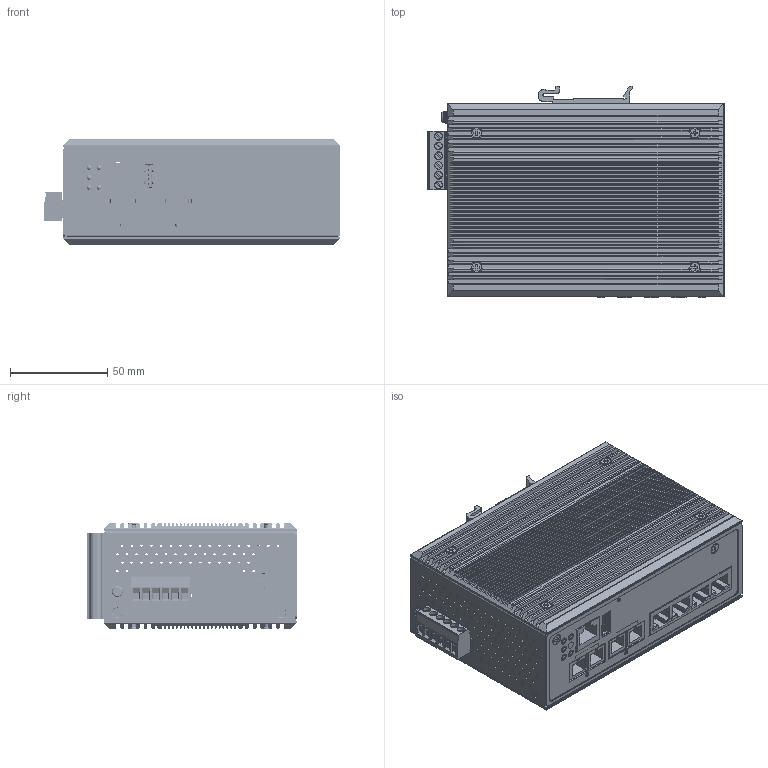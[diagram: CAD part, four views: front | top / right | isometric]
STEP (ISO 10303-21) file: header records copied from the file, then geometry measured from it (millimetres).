
FILE_DESCRIPTION(/* description */ ('STEP AP242 Edition 2','CAx-IF Rec.Pracs.---Representation and Presentation of Product Manufacturing Information (PMI)---4.0---2014-10-13','CAx-IF Rec.Pracs.---3D Tessellated Geometry---0.4---2014-09-14','2;1','CAx-IF Rec.Pracs.---User Defined Attributes---1.5---2016-08-15'),/* implementation_level */ '2;1');
FILE_NAME(/* name */ '69275d2b624f41757cb8db4b',/* time_stamp */ '2025-11-26T20:03:58Z',/* author */ (''),/* organization */ (''),/* preprocessor_version */ 'ST-DEVELOPER v20',/* originating_system */ 'ONSHAPE BY PTC INC, 1.207',/* authorisation */ ' ');
FILE_SCHEMA (('AP242_MANAGED_MODEL_BASED_3D_ENGINEERING_MIM_LF { 1 0 10303 442 3 1 4 }'));
Products named in the file (264): ETH-42MP-XX-2; PG5-0602_THERMAL-PAD_TOOLS_DOWN; BOTTOM-CASE; SC-FIBER_1; TOP_CASE; SCREW_M3X4_F_7; M3_SCREW_FOR_GRN_1604_ANY; RIGHT_COVER; SCREW_M3X4_F_12; BSO-M3-6_5L_2; 10G-SFP_BOTTOM-CASE_BK; RJ45-CONSOLE; THERMAL-PAD_18X13_5X6_5; BSO-M3-6_5L_3; THERMAL-PAD_20X14X6_5; CONN_04; SCREW_M3X4_F_16; LED_GREEN_2; CONN_09; SCREW_M3X4_F_4; BSO-M3-6_5L_1; PORT; CONN_01; THERMAL-PAD_22X22X6_5; SCREW_M3X4_F_17; CONN_11; SC-FIBER_2; CONN_07; THERMAL-PAD_22X22X6_5_1; THERMAL-PAD_22X12X2; CONN_05; PG5-0602_HEATSINK; RELAY_HFD3; CONN_12; BSO-M3-6_5L; SOCKET; SCREW_M3X4_F_2; SCREW_M3X4_F_6; CONN_08; SWITCH_PCB_PG5-0602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
Assembly tree (263 placements, depth 2):
  ETH-42MP-XX-2
    PG5-0602_THERMAL-PAD_TOOLS_DOWN
    BOTTOM-CASE
    BOTTOM-CASE
    SC-FIBER_1
    BOTTOM-CASE
    BOTTOM-CASE
    BOTTOM-CASE
    BOTTOM-CASE
    BOTTOM-CASE
    BOTTOM-CASE
    TOP_CASE
    SCREW_M3X4_F_7
    BOTTOM-CASE
    M3_SCREW_FOR_GRN_1604_ANY
    BOTTOM-CASE
    TOP_CASE
    TOP_CASE
    RIGHT_COVER
    BOTTOM-CASE
    SCREW_M3X4_F_12
    BOTTOM-CASE
    BOTTOM-CASE
    BOTTOM-CASE
    BSO-M3-6_5L_2
    BOTTOM-CASE
    10G-SFP_BOTTOM-CASE_BK
    BOTTOM-CASE
    RJ45-CONSOLE
    TOP_CASE
    BOTTOM-CASE
    BOTTOM-CASE
    BOTTOM-CASE
    BOTTOM-CASE
    THERMAL-PAD_18X13_5X6_5
    BSO-M3-6_5L_3
    THERMAL-PAD_20X14X6_5
    BOTTOM-CASE
    BOTTOM-CASE
    BOTTOM-CASE
    BOTTOM-CASE
    BOTTOM-CASE
    CONN_04
    BOTTOM-CASE
    BOTTOM-CASE
    BOTTOM-CASE
    BOTTOM-CASE
    SCREW_M3X4_F_16
    BOTTOM-CASE
    BOTTOM-CASE
    LED_GREEN_2
    BOTTOM-CASE
    BOTTOM-CASE
    BOTTOM-CASE
    TOP_CASE
    BOTTOM-CASE
    BOTTOM-CASE
    BOTTOM-CASE
    BOTTOM-CASE
    BOTTOM-CASE
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Bounding box: 152 x 108.3 x 54 mm (x, y, z)
Volume: 216203.6 mm3; surface area: 300160.1 mm2
Topology: 50 solids, 265 shells, 3598 faces, 10311 edges, 7032 vertices
Faces by surface type: plane 2164, cylinder 1212, cone 98, torus 87, sphere 35, bspline 2
Full cylindrical faces by diameter (mm): 0.5 x12, 0.609 x1, 1.3 x22, 1.4 x6, 1.5 x1, 1.8 x1, 1.9 x245, 2 x28, 2.3 x5, 2.449 x4, 2.459 x4, 2.5 x4, 2.8 x18, 2.9 x8, 3 x23, 3.2 x12, 3.4 x8, 3.5 x13, 3.78 x4, 3.783 x6, 3.99 x8, 4 x40, 4.2 x13, 4.8 x4, 5 x18, 5.5 x1
Entity records: 126195 total; most frequent: CARTESIAN_POINT 26170, DIRECTION 19418, ORIENTED_EDGE 17584, EDGE_CURVE 9529, VERTEX_POINT 6897, AXIS2_PLACEMENT_3D 6604, LINE 6210, VECTOR 6210
